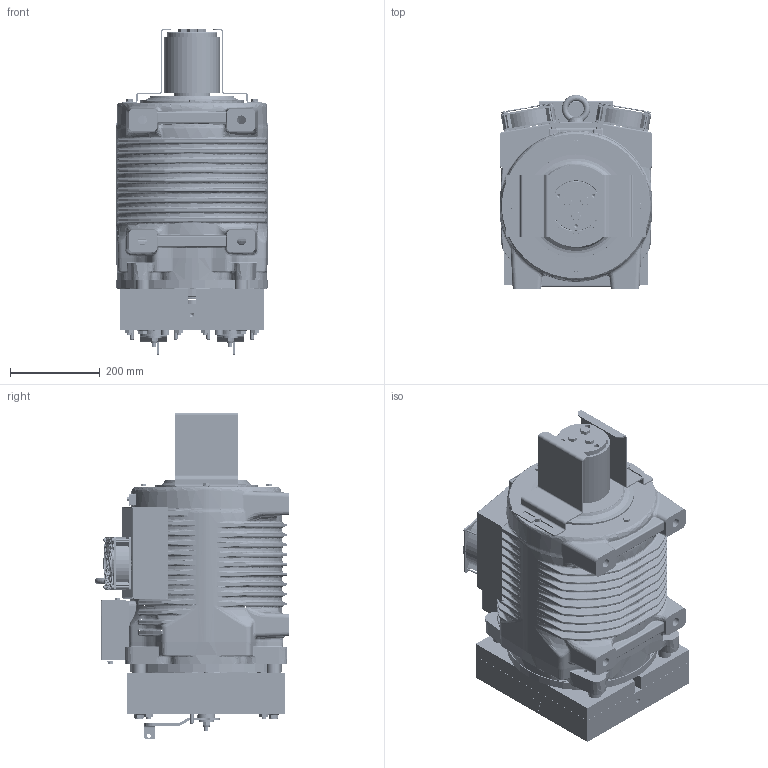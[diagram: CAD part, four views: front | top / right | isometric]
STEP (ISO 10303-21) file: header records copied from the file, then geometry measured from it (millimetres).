
FILE_DESCRIPTION((''),'2;1');
FILE_NAME('00363588_ASM','2020-06-08T',('furlanis'),('Sicor spa'),'CREO PARAMETRIC BY PTC INC, 2017170','CREO PARAMETRIC BY PTC INC, 2017170','');
FILE_SCHEMA(('CONFIG_CONTROL_DESIGN'));
Products named in the file (18): SG48; _120_125; _120; 00073486; TEM12X80_VIT0087; 00255325; M4_FTT_C; 00257514_ASM; 00002908; 00002901; 00002909_ASM; 00002902; 00042420_M4X50; TEM6X12_VIR0184; 00000263; 00257517_ASM; RTW800_MIT_HL; 00363588_ASM
Assembly tree (37 placements, depth 4):
  00363588_ASM
    SG48
    _120_125
    _120  x2
    00073486
    TEM12X80_VIT0087  x3
    00257517_ASM
      00257514_ASM
        00255325
        M4_FTT_C  x8
      00002909_ASM  x2
        00002908
        00002901
      00002902  x2
      00042420_M4X50  x8
      TEM6X12_VIR0184  x2
      00000263
    RTW800_MIT_HL
Bounding box: 340.21 x 433.5 x 728.34 mm (x, y, z)
Volume: 13311390.6 mm3; surface area: 3062930.3 mm2
Topology: 35 solids, 289 shells, 8459 faces, 24767 edges, 16535 vertices
Faces by surface type: plane 4440, cylinder 1791, bspline 904, cone 686, torus 584, sphere 42, revolution 12
Entity records: 342895 total; most frequent: CARTESIAN_POINT 146008, ORIENTED_EDGE 41262, DIRECTION 36739, EDGE_CURVE 23105, VERTEX_POINT 15558, VECTOR 13675, LINE 13675, AXIS2_PLACEMENT_3D 11526
